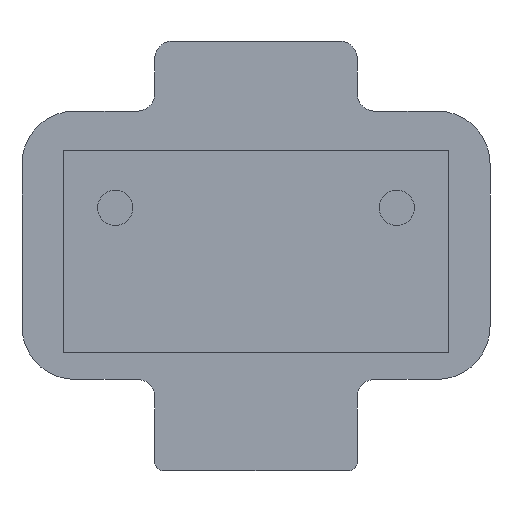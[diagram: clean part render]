
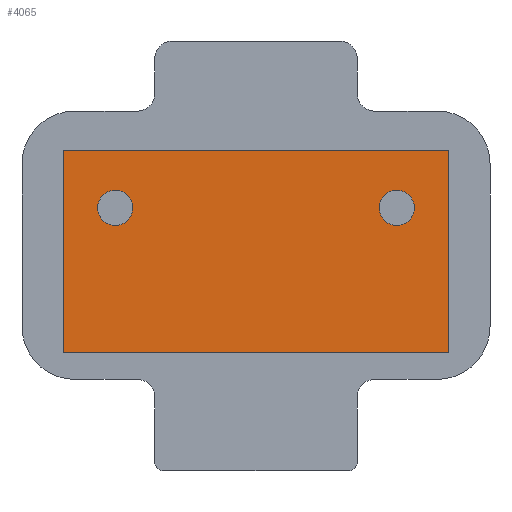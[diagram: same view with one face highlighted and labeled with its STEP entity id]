
A CAD part, front view. The second image highlights one B-rep face of the part: STEP entity #4065.
In plain terms, the highlighted planar face has unit normal (0, -1, 0).
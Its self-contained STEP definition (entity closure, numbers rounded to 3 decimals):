
#106 = VERTEX_POINT ( 'NONE', #3967 ) ;
#166 = EDGE_LOOP ( 'NONE', ( #2739, #3288, #7299, #5930 ) ) ;
#299 = DIRECTION ( 'NONE',  ( -1., 0., 0. ) ) ;
#562 = FACE_BOUND ( 'NONE', #670, .T. ) ;
#610 = FACE_BOUND ( 'NONE', #7522, .T. ) ;
#670 = EDGE_LOOP ( 'NONE', ( #929, #8472 ) ) ;
#915 = ORIENTED_EDGE ( 'NONE', *, *, #3468, .F. ) ;
#929 = ORIENTED_EDGE ( 'NONE', *, *, #5948, .F. ) ;
#968 = CARTESIAN_POINT ( 'NONE',  ( -22.816, 1.162, 42.7 ) ) ;
#1053 = LINE ( 'NONE', #3342, #1794 ) ;
#1281 = FACE_OUTER_BOUND ( 'NONE', #166, .T. ) ;
#1468 = CARTESIAN_POINT ( 'NONE',  ( -22.816, 1.162, 44.77 ) ) ;
#1521 = CARTESIAN_POINT ( 'NONE',  ( 20.984, 1.162, 76.47 ) ) ;
#1635 = AXIS2_PLACEMENT_3D ( 'NONE', #3433, #1964, #5806 ) ;
#1774 = DIRECTION ( 'NONE',  ( -1., 0., 0. ) ) ;
#1794 = VECTOR ( 'NONE', #1774, 1000. ) ;
#1836 = CARTESIAN_POINT ( 'NONE',  ( 15.084, 1.162, 57.199 ) ) ;
#1912 = EDGE_CURVE ( 'NONE', #2356, #8509, #1053, .T. ) ;
#1964 = DIRECTION ( 'NONE',  ( 0., -1., 0. ) ) ;
#2174 = PLANE ( 'NONE',  #4135 ) ;
#2256 = DIRECTION ( 'NONE',  ( 0., 0., 1. ) ) ;
#2315 = CARTESIAN_POINT ( 'NONE',  ( 20.984, 1.162, 65.694 ) ) ;
#2356 = VERTEX_POINT ( 'NONE', #3157 ) ;
#2550 = CIRCLE ( 'NONE', #7418, 2. ) ;
#2739 = ORIENTED_EDGE ( 'NONE', *, *, #7821, .F. ) ;
#2862 = DIRECTION ( 'NONE',  ( -1., 0., 0. ) ) ;
#3157 = CARTESIAN_POINT ( 'NONE',  ( 20.984, 1.162, 42.7 ) ) ;
#3288 = ORIENTED_EDGE ( 'NONE', *, *, #3390, .F. ) ;
#3342 = CARTESIAN_POINT ( 'NONE',  ( 21.584, 1.162, 42.7 ) ) ;
#3353 = EDGE_CURVE ( 'NONE', #2356, #5748, #5329, .T. ) ;
#3390 = EDGE_CURVE ( 'NONE', #8509, #4215, #5276, .T. ) ;
#3433 = CARTESIAN_POINT ( 'NONE',  ( 15.084, 1.162, 59.199 ) ) ;
#3448 = CARTESIAN_POINT ( 'NONE',  ( -16.362, 1.162, 58.966 ) ) ;
#3468 = EDGE_CURVE ( 'NONE', #8934, #106, #2550, .T. ) ;
#3481 = DIRECTION ( 'NONE',  ( 1., 0., 0. ) ) ;
#3500 = CIRCLE ( 'NONE', #1635, 2. ) ;
#3615 = VERTEX_POINT ( 'NONE', #6611 ) ;
#3811 = DIRECTION ( 'NONE',  ( 0., -1., 0. ) ) ;
#3967 = CARTESIAN_POINT ( 'NONE',  ( -16.916, 1.162, 57.199 ) ) ;
#4029 = CARTESIAN_POINT ( 'NONE',  ( 15.084, 1.162, 59.199 ) ) ;
#4062 = AXIS2_PLACEMENT_3D ( 'NONE', #4029, #7026, #299 ) ;
#4065 = ADVANCED_FACE ( 'NONE', ( #1281, #610, #562 ), #2174, .F. ) ;
#4135 = AXIS2_PLACEMENT_3D ( 'NONE', #3448, #9599, #2862 ) ;
#4182 = CARTESIAN_POINT ( 'NONE',  ( -22.816, 1.162, 65.694 ) ) ;
#4215 = VERTEX_POINT ( 'NONE', #5630 ) ;
#4727 = DIRECTION ( 'NONE',  ( 0., -1., 0. ) ) ;
#5276 = LINE ( 'NONE', #1468, #9184 ) ;
#5329 = LINE ( 'NONE', #1521, #6049 ) ;
#5420 = CIRCLE ( 'NONE', #8061, 2. ) ;
#5425 = VERTEX_POINT ( 'NONE', #1836 ) ;
#5630 = CARTESIAN_POINT ( 'NONE',  ( -22.816, 1.162, 65.694 ) ) ;
#5748 = VERTEX_POINT ( 'NONE', #2315 ) ;
#5806 = DIRECTION ( 'NONE',  ( -1., 0., 0. ) ) ;
#5930 = ORIENTED_EDGE ( 'NONE', *, *, #3353, .T. ) ;
#5948 = EDGE_CURVE ( 'NONE', #3615, #5425, #3500, .T. ) ;
#6049 = VECTOR ( 'NONE', #7586, 1000. ) ;
#6361 = VECTOR ( 'NONE', #3481, 1000. ) ;
#6611 = CARTESIAN_POINT ( 'NONE',  ( 15.084, 1.162, 61.199 ) ) ;
#6730 = CIRCLE ( 'NONE', #4062, 2. ) ;
#7026 = DIRECTION ( 'NONE',  ( 0., -1., 0. ) ) ;
#7299 = ORIENTED_EDGE ( 'NONE', *, *, #1912, .F. ) ;
#7418 = AXIS2_PLACEMENT_3D ( 'NONE', #9150, #4727, #7642 ) ;
#7522 = EDGE_LOOP ( 'NONE', ( #915, #9040 ) ) ;
#7586 = DIRECTION ( 'NONE',  ( 0., 0., 1. ) ) ;
#7615 = DIRECTION ( 'NONE',  ( -1., 0., 0. ) ) ;
#7642 = DIRECTION ( 'NONE',  ( -1., 0., 0. ) ) ;
#7716 = CARTESIAN_POINT ( 'NONE',  ( -16.916, 1.162, 59.199 ) ) ;
#7821 = EDGE_CURVE ( 'NONE', #4215, #5748, #8066, .T. ) ;
#8061 = AXIS2_PLACEMENT_3D ( 'NONE', #7716, #3811, #7615 ) ;
#8066 = LINE ( 'NONE', #4182, #6361 ) ;
#8448 = EDGE_CURVE ( 'NONE', #106, #8934, #5420, .T. ) ;
#8472 = ORIENTED_EDGE ( 'NONE', *, *, #9602, .F. ) ;
#8509 = VERTEX_POINT ( 'NONE', #968 ) ;
#8934 = VERTEX_POINT ( 'NONE', #9405 ) ;
#9040 = ORIENTED_EDGE ( 'NONE', *, *, #8448, .F. ) ;
#9150 = CARTESIAN_POINT ( 'NONE',  ( -16.916, 1.162, 59.199 ) ) ;
#9184 = VECTOR ( 'NONE', #2256, 1000. ) ;
#9405 = CARTESIAN_POINT ( 'NONE',  ( -16.916, 1.162, 61.199 ) ) ;
#9599 = DIRECTION ( 'NONE',  ( 0., 1., 0. ) ) ;
#9602 = EDGE_CURVE ( 'NONE', #5425, #3615, #6730, .T. ) ;
